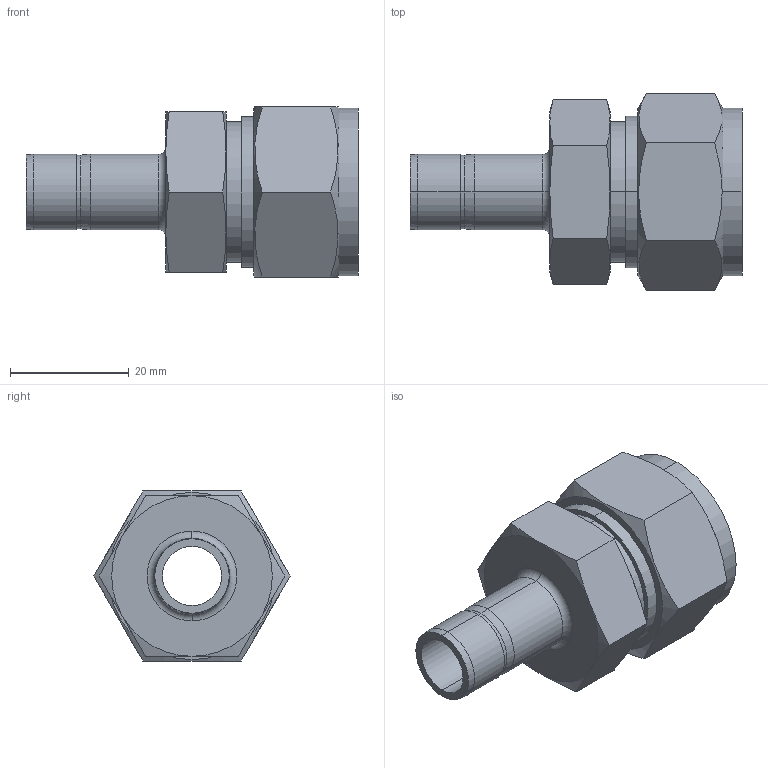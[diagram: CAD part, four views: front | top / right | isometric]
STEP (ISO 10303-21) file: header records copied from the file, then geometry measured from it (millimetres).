
FILE_DESCRIPTION (( 'STEP AP203' ), '1' );
FILE_NAME ('DRE12-08 SS.STEP', '2009-09-08T08:38:45', ( ' ' ), ( '' ), 'SwSTEP 2.0', 'SolidWorks 2008', '' );
FILE_SCHEMA (( 'CONFIG_CONTROL_DESIGN' ));
Length unit declared in the file: millimetre
Products named in the file (1): DRE12-08 SS
Bounding box: 55.8 x 33 x 28.58 mm (x, y, z)
Volume: 13877 mm3; surface area: 7888.6 mm2
Topology: 1 solids, 1 shells, 63 faces, 138 edges, 82 vertices
Faces by surface type: cone 24, plane 19, cylinder 18, torus 2
Entity records: 1965 total; most frequent: CARTESIAN_POINT 540, DIRECTION 282, ORIENTED_EDGE 276, EDGE_CURVE 138, AXIS2_PLACEMENT_3D 120, VERTEX_POINT 82, EDGE_LOOP 70, ADVANCED_FACE 63
